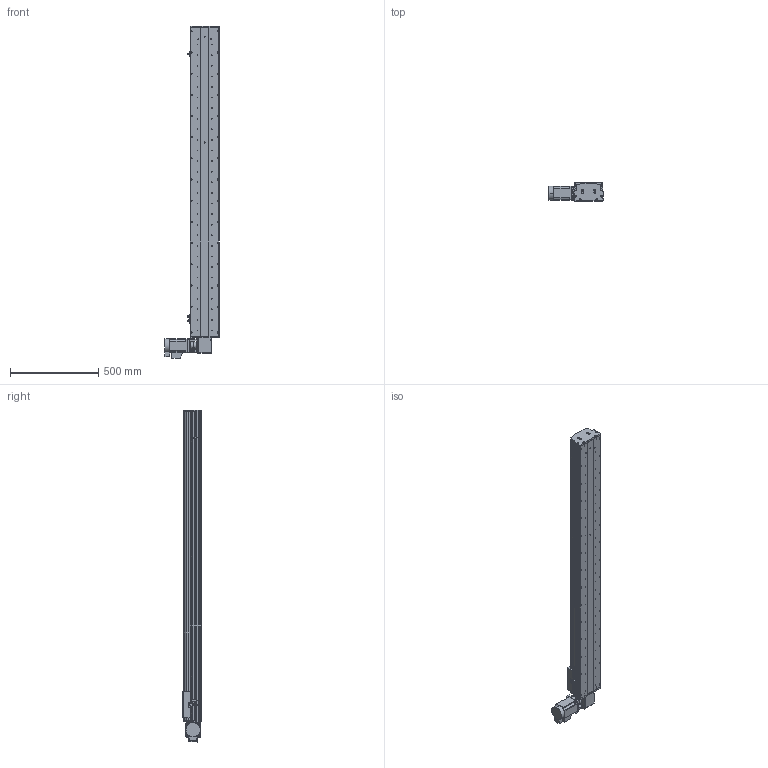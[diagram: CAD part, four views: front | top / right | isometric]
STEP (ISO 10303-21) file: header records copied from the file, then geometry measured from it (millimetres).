
FILE_DESCRIPTION (( 'STEP AP214' ), '1' );
FILE_NAME ('KSD165B-S1500-MRT-CM.STEP', '2017-10-17T01:47:07', ( '微软用户' ), ( '微软中国' ), 'SwSTEP 2.0', 'SolidWorks 2014', '' );
FILE_SCHEMA (( 'AUTOMOTIVE_DESIGN' ));
Length unit declared in the file: millimetre
Products named in the file (16): KSD165B-S1500-MRT-CM; 165宽马达安装板同步带左-改; KSD165模组-同步带防尘盖1-1500行程; KSD165模组同步带底板-1500行程; 拸秶雄ん750W侜督萇儂; 165宽安装板同步带带电机座750W; C39ㄜ1419WP; U倰嫖萇假蚾璃; U倰嫖萇EEㄜSX672; 覜茼え68遵圉猾敕; KSD165模组-同步带-防撞垫2; KSD165模组同步带-防撞垫1; KSD165耀郪-ヶ傷啣1-肮祭湍; KSD165模组-后端板1-同步带; 130宽马达安装板1-带电机座750W（1）; KSD165模组-同步带滑动座-最新版
Assembly tree (19 placements, depth 2):
  KSD165B-S1500-MRT-CM
    KSD165模组-同步带滑动座-最新版
    130宽马达安装板1-带电机座750W（1）
    KSD165模组-后端板1-同步带
    KSD165耀郪-ヶ傷啣1-肮祭湍
    KSD165模组同步带-防撞垫1
    KSD165模组-同步带-防撞垫2
    覜茼え68遵圉猾敕
    U倰嫖萇EEㄜSX672  x3
    U倰嫖萇假蚾璃  x3
    C39ㄜ1419WP
    165宽安装板同步带带电机座750W
    拸秶雄ん750W侜督萇儂
    KSD165模组同步带底板-1500行程
    KSD165模组-同步带防尘盖1-1500行程
    165宽马达安装板同步带左-改
Bounding box: 307.5 x 104 x 1881.06 mm (x, y, z)
Volume: 10142368.1 mm3; surface area: 2313102.3 mm2
Topology: 20 solids, 21 shells, 1590 faces, 4440 edges, 2881 vertices
Faces by surface type: cylinder 905, plane 591, cone 94
Entity records: 51555 total; most frequent: CARTESIAN_POINT 10783, DIRECTION 7974, ORIENTED_EDGE 7532, EDGE_CURVE 3766, AXIS2_PLACEMENT_3D 3056, VERTEX_POINT 2473, LINE 1862, VECTOR 1862
